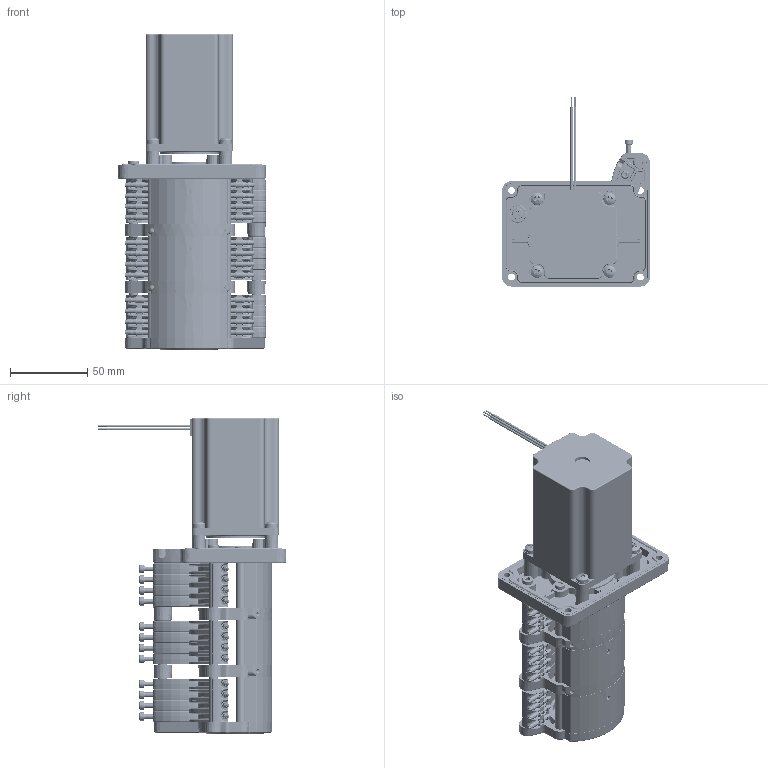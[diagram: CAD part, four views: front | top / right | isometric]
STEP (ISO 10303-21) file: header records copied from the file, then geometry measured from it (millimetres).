
FILE_DESCRIPTION (( 'STEP AP214' ), '1' );
FILE_NAME ('Assy_6K6003_NC_R00.STEP', '2026-09-24T12:50:42', ( '' ), ( '' ), 'SwSTEP 2.0', 'SolidWorks 2021', '' );
FILE_SCHEMA (( 'AUTOMOTIVE_DESIGN' ));
Length unit declared in the file: millimetre
Products named in the file (1): Assy_6K6003_NC_R00
Bounding box: 95.89 x 122.36 x 204.5 mm (x, y, z)
Volume: 392459 mm3; surface area: 171184.7 mm2
Topology: 25 solids, 25 shells, 6636 faces, 15972 edges, 9353 vertices
Faces by surface type: plane 2072, cylinder 1723, bspline 1348, cone 776, torus 510, sphere 207
Full cylindrical faces by diameter (mm): 1 x4, 1.6 x4, 1.8 x24, 2.4 x4, 2.5 x1, 3 x28, 3.2 x4, 4.5 x4, 5 x12, 5.5 x12, 6.05 x9, 6.1 x15, 7 x7, 7.5 x4, 7.96 x1, 8 x4, 8.55 x8, 10 x2, 10.5 x1, 24.168 x1, 38.1 x1
Entity records: 242124 total; most frequent: CARTESIAN_POINT 106049, ORIENTED_EDGE 30516, DIRECTION 25053, EDGE_CURVE 15258, AXIS2_PLACEMENT_3D 9640, VERTEX_POINT 9204, EDGE_LOOP 7278, FACE_OUTER_BOUND 6843
